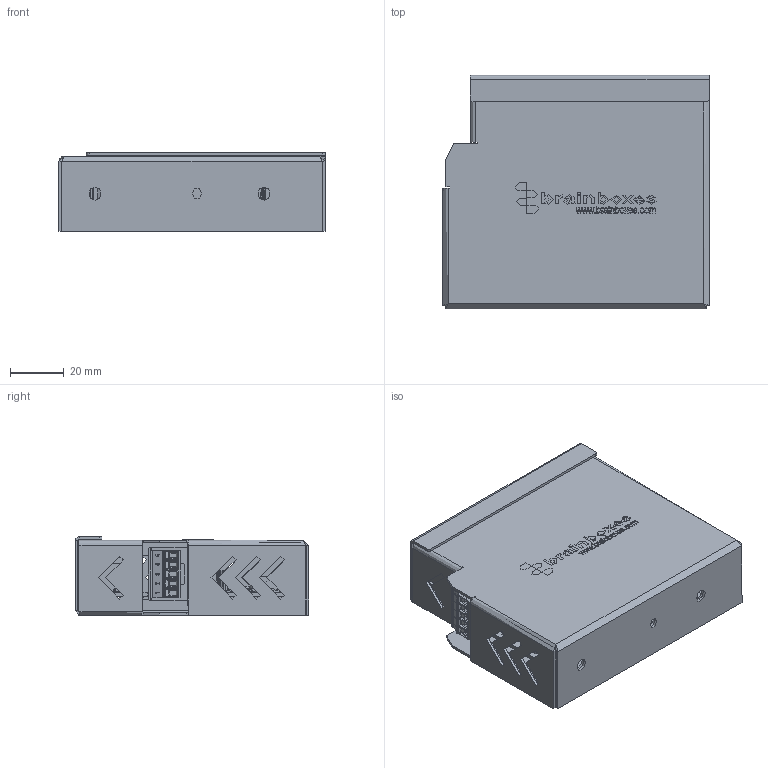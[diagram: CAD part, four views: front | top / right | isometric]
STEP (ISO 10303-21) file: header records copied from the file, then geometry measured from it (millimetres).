
FILE_DESCRIPTION(('STEP AP214'),'1');
FILE_NAME('SW-715 Cased PCB 3D Step.step','2020-12-22T15:52:50',(' '),(' '),'Spatial InterOp 3D','XD3DPlugin XRACreate',' ');
FILE_SCHEMA(('automotive_design'));
Length unit declared in the file: millimetre
Products named in the file (41): Submodel-Input_S\SRR5028.xtd; SRR5028; Submodel-6610UH1A5_part_simplified_SRR5028; DesignRootModel; Submodel-Input_S\SMC.xtd; SMC; Submodel-55TZ1K5SMC36V_part_simplified_SMC; Submodel-Input_S\00MAGJACK1X4GIG.xtd; 00MAGJACK1X4GIG; Submodel-00MAGJACK1X4GIG_part_simplified_MAGJACK1X4G; Submodel-Input_S\00MAGJACK1X1GIG.xtd; 00MAGJACK1X1GIG; Submodel-00MAGJACK1X1GIG_part_simplified_MAGJACK1X1G; Submodel-Input_S\SMD_ELEC_D.xtd; SMD_ELEC_D; Submodel-7547UF50V_part_simplified_SMD_ELEC_D; Submodel-Input_S\82HEA3MM5TBX5_L_BLACK.xtd; 82HEA3MM5TBX5_L_BLACK; Submodel-82HEA3MM5TBX5_L_BLACK_part_simplified_TBX5_LEFT; Submodel-Input_S\6610UH5A5.xtd; 6610UH5A5; Submodel-6610UH5A5_part_simplified_SRR1260; uid__9223372036854780805; Submodel-AssyDefn_9; BrainboxesLogo.step; Submodel-AssyDefn_8; 5PortMetalLid.step; Submodel-AssyDefn_7; 5PortMetalBase.step; Submodel-AssyDefn_5; 82PLUG3MM5_X5_1_5_BLCK.sat; Submodel-noModelForPart_DATUM_2441444698; placementOutline; Submodel-DATUM_2441444698_part_DATUM; Submodel-noModelForPart_CHASSISPINS_566188278; Submodel-CHASSISPINS_566188278_part_CHASSISPINS; Submodel-noModelForPart_MOUNTINGHOLE_2132796670; Submodel-MOUNTINGHOLE_2132796670_part_MOUNTINGHOLE; SW-715 Cased PCB 3D Step
Assembly tree (45 placements, depth 5):
  SW-715 Cased PCB 3D Step
    DesignRootModel
      Submodel-6610UH1A5_part_simplified_SRR5028
        Submodel-Input_S\SRR5028.xtd
          SRR5028
      Submodel-55TZ1K5SMC36V_part_simplified_SMC  x4
        Submodel-Input_S\SMC.xtd
          SMC
      Submodel-00MAGJACK1X4GIG_part_simplified_MAGJACK1X4G
        Submodel-Input_S\00MAGJACK1X4GIG.xtd
          00MAGJACK1X4GIG
      Submodel-00MAGJACK1X1GIG_part_simplified_MAGJACK1X1G
        Submodel-Input_S\00MAGJACK1X1GIG.xtd
          00MAGJACK1X1GIG
      Submodel-7547UF50V_part_simplified_SMD_ELEC_D
        Submodel-Input_S\SMD_ELEC_D.xtd
          SMD_ELEC_D
      Submodel-82HEA3MM5TBX5_L_BLACK_part_simplified_TBX5_LEFT
        Submodel-Input_S\82HEA3MM5TBX5_L_BLACK.xtd
          82HEA3MM5TBX5_L_BLACK
      Submodel-6610UH5A5_part_simplified_SRR1260
        Submodel-Input_S\6610UH5A5.xtd
          6610UH5A5
      uid__9223372036854780805
      Submodel-AssyDefn_9  x2
        BrainboxesLogo.step
      Submodel-AssyDefn_8
        5PortMetalLid.step
      Submodel-AssyDefn_7
        5PortMetalBase.step
      Submodel-AssyDefn_5
        82PLUG3MM5_X5_1_5_BLCK.sat
      Submodel-DATUM_2441444698_part_DATUM
        Submodel-noModelForPart_DATUM_2441444698
          placementOutline
      Submodel-CHASSISPINS_566188278_part_CHASSISPINS
        Submodel-noModelForPart_CHASSISPINS_566188278
          placementOutline
      Submodel-MOUNTINGHOLE_2132796670_part_MOUNTINGHOLE  x2
        Submodel-noModelForPart_MOUNTINGHOLE_2132796670
          placementOutline
Bounding box: 99.3 x 87.15 x 29.4 mm (x, y, z)
Volume: 53908.1 mm3; surface area: 109394.1 mm2
Topology: 112 solids, 132 shells, 9632 faces, 27857 edges, 18111 vertices
Faces by surface type: plane 7789, cylinder 1194, bspline 566, torus 37, cone 34, sphere 12
Full cylindrical faces by diameter (mm): 3.81 x1
Entity records: 374441 total; most frequent: CARTESIAN_POINT 60616, ORIENTED_EDGE 52214, DIRECTION 45937, EDGE_CURVE 26107, LINE 22745, VECTOR 22745, VERTEX_POINT 16969, AXIS2_PLACEMENT_3D 11596
